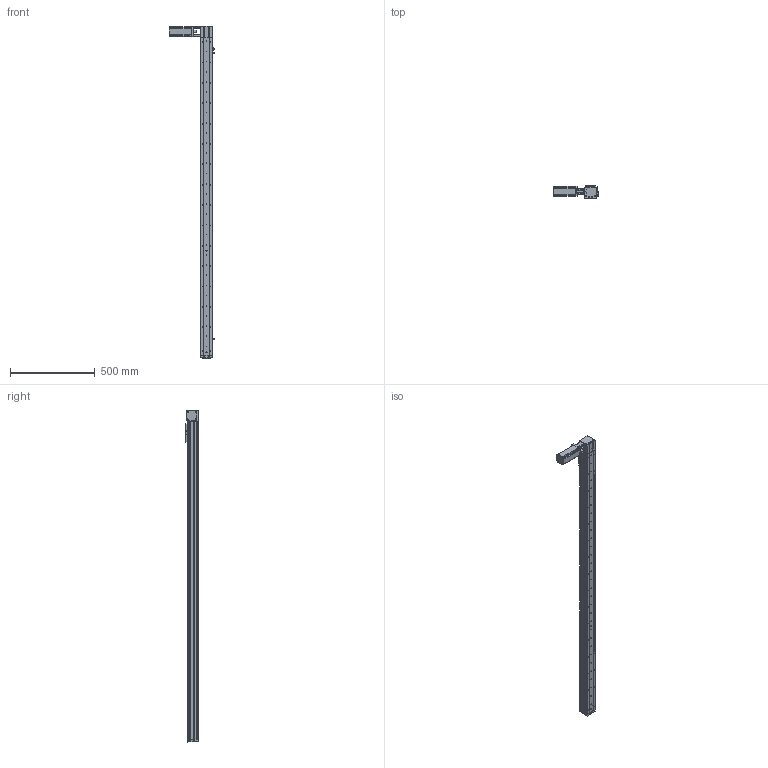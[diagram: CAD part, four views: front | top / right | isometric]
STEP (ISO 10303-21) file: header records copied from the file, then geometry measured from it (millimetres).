
FILE_DESCRIPTION (( 'STEP AP214' ), '1' );
FILE_NAME ('KSD68BS-S1700-MLT-CR.STEP', '2019-08-28T04:00:24', ( '微软用户' ), ( '微软中国' ), 'SwSTEP 2.0', 'SolidWorks 2014', '' );
FILE_SCHEMA (( 'AUTOMOTIVE_DESIGN' ));
Length unit declared in the file: millimetre
Products named in the file (13): 68遵裔啣揤啣1; 68宽单导轨全封闭丝杆传动安装板1防护罩; KSD68BS 1700行程侧板全封闭; 68宽单导轨全封闭同步带端板; 68单导轨全封闭同步带电机座右; 68单导轨全封闭同步带安装板; 感应片68宽全封闭; U倰嫖萇EEㄜSX672; 台达ECMA－C20604AS伺服电机（400W); KSD68BS 1700行程底板全封闭; KSD68BS-S1700-MLT-CR; 100遵鎮湛假蚾啣1; KSD68BS 1700行程盖板全封闭
Assembly tree (16 placements, depth 2):
  KSD68BS-S1700-MLT-CR
    KSD68BS 1700行程底板全封闭
    台达ECMA－C20604AS伺服电机（400W)
    U倰嫖萇EEㄜSX672  x3
    感应片68宽全封闭
    68单导轨全封闭同步带安装板
    68单导轨全封闭同步带电机座右
    68宽单导轨全封闭同步带端板
    KSD68BS 1700行程侧板全封闭  x2
    68宽单导轨全封闭丝杆传动安装板1防护罩
    68遵裔啣揤啣1  x2
    KSD68BS 1700行程盖板全封闭
    100遵鎮湛假蚾啣1
Bounding box: 266.4 x 77 x 1958.1 mm (x, y, z)
Volume: 3429026.6 mm3; surface area: 1378653.1 mm2
Topology: 17 solids, 17 shells, 1564 faces, 4520 edges, 2873 vertices
Faces by surface type: cylinder 768, plane 604, cone 192
Entity records: 51269 total; most frequent: CARTESIAN_POINT 8885, DIRECTION 7564, ORIENTED_EDGE 7236, EDGE_CURVE 3618, AXIS2_PLACEMENT_3D 2766, VERTEX_POINT 2371, LINE 2032, VECTOR 2032
